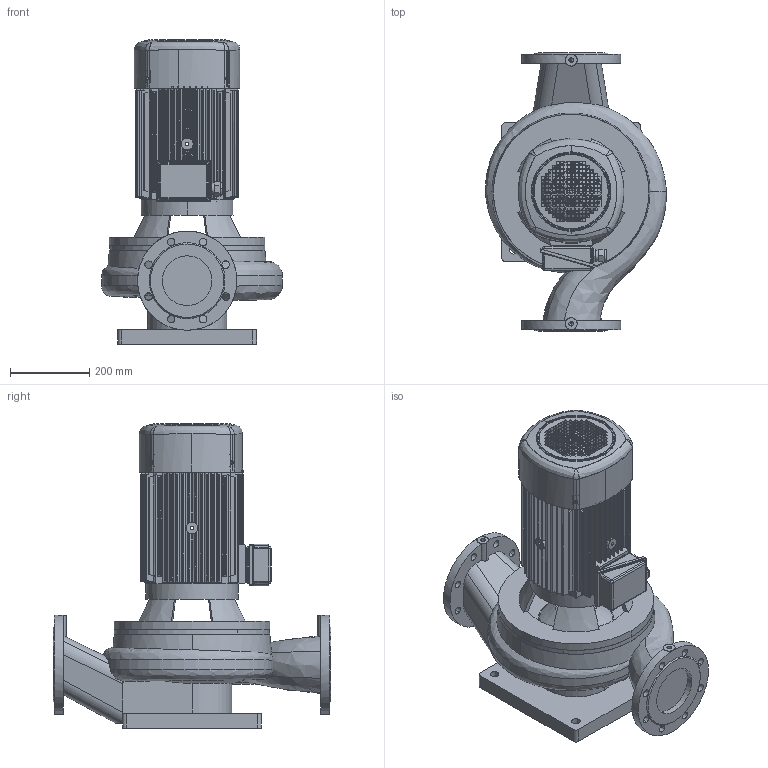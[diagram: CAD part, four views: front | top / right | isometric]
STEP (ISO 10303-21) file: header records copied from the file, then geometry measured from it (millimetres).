
FILE_DESCRIPTION(('STEP AP214'),'1');
FILE_NAME('export.stp','2018-05-28T11:58:48',(' '),(' '),'Spatial InterOp 3D',' ',' ');
FILE_SCHEMA(('AUTOMOTIVE_DESIGN { 1 0 10303 214 1 1 1 1 }'));
Length unit declared in the file: millimetre
Products named in the file (14): W_AL11284750KP134; V_TLL100SAL1202; V_PPALP1128; PP_ALP1128_kesken; Tukijalka_ALP1128; KP-134_H2; R200882; G23890VA; R201240; G23619; G43699; KYTKOTELO_100_133; V_MKP-134-H2-F31; V_EKF31OKN132133
Assembly tree (13 placements, depth 4):
  W_AL11284750KP134
    V_TLL100SAL1202
    V_PPALP1128
      PP_ALP1128_kesken
      Tukijalka_ALP1128
    V_MKP-134-H2-F31
      KP-134_H2
        R200882
        G23890VA
        R201240
        G23619
        G43699
        KYTKOTELO_100_133
      V_EKF31OKN132133
Bounding box: 455.65 x 700 x 766.5 mm (x, y, z)
Volume: 37567805.6 mm3; surface area: 3331557.4 mm2
Topology: 9 solids, 11 shells, 2582 faces, 7465 edges, 4869 vertices
Faces by surface type: plane 1366, cylinder 722, cone 169, bspline 166, torus 132, sphere 27
Entity records: 136086 total; most frequent: CARTESIAN_POINT 44974, ORIENTED_EDGE 14786, DIRECTION 12649, EDGE_CURVE 7418, VERTEX_POINT 4867, LINE 4235, VECTOR 4235, AXIS2_PLACEMENT_3D 4207
